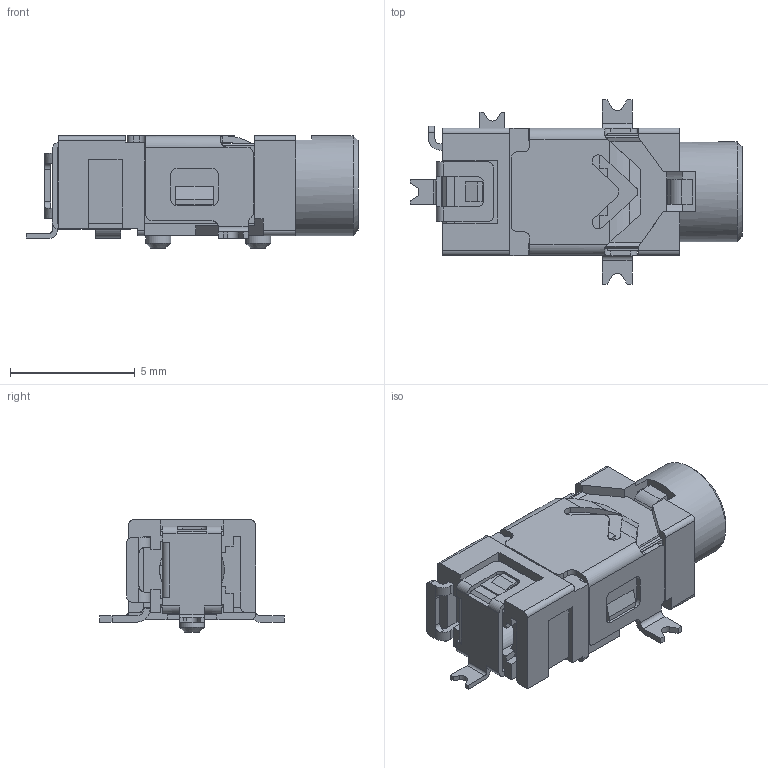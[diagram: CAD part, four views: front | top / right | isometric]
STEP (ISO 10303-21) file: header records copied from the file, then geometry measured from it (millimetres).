
FILE_DESCRIPTION(/* description */ ('STEP AP214'),/* implementation_level */ '2;1');
FILE_NAME(/* name */ 'MonoAudio_2mm5.step',/* time_stamp */ '2024-11-10T16:27:32+01:00',/* author */ (''),/* organization */ (''),/* preprocessor_version */ 'ST-DEVELOPER v20',/* originating_system */ 'Autodesk Translation Framework v13.20.0.188',/* authorisation */ '');
FILE_SCHEMA (('AUTOMOTIVE_DESIGN { 1 0 10303 214 3 1 1 }'));
Length unit declared in the file: inch
Products named in the file (1): CUI_DEVICES_SJ2-25102B-SMT-TR
Bounding box: 13.3 x 7.4 x 4.5 mm (x, y, z)
Volume: 149 mm3; surface area: 463.1 mm2
Topology: 1 solids, 2 shells, 411 faces, 1209 edges, 798 vertices
Faces by surface type: plane 286, cylinder 121, cone 4
Full cylindrical faces by diameter (mm): 1 x2, 2.6 x1, 4 x1
Entity records: 14144 total; most frequent: CARTESIAN_POINT 2698, ORIENTED_EDGE 2418, DIRECTION 2270, EDGE_CURVE 1209, LINE 906, VECTOR 906, VERTEX_POINT 798, AXIS2_PLACEMENT_3D 682
